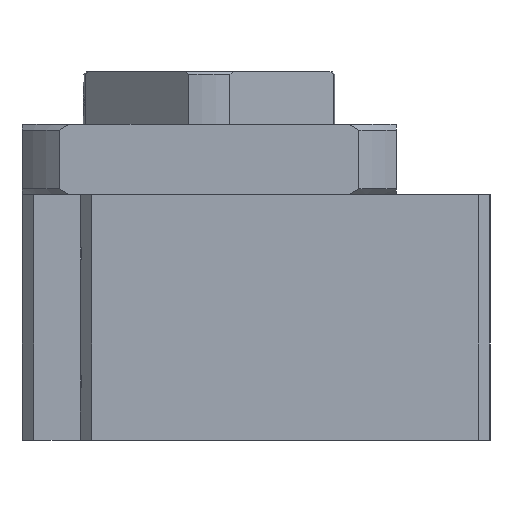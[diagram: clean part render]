
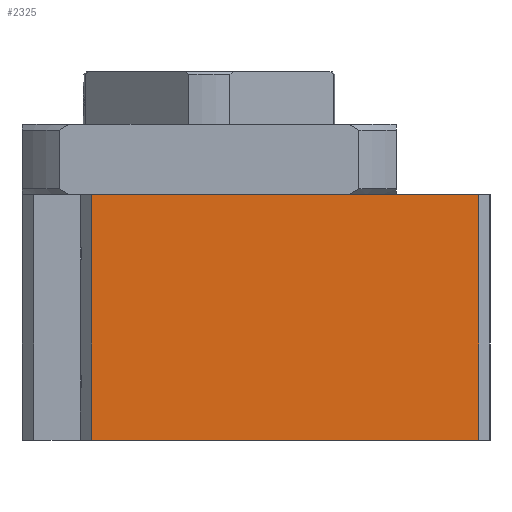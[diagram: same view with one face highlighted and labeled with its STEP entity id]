
A CAD part, left-side view. The second image highlights one B-rep face of the part: STEP entity #2325.
In plain terms, the highlighted planar face has unit normal (-1, 0, 0).
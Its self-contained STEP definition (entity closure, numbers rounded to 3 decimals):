
#121=LINE('',#3545,#297);
#134=LINE('',#3578,#310);
#135=LINE('',#3581,#311);
#136=LINE('',#3582,#312);
#297=VECTOR('',#2810,1000.);
#310=VECTOR('',#2833,1000.);
#311=VECTOR('',#2834,1000.);
#312=VECTOR('',#2835,1000.);
#465=PLANE('',#2525);
#603=ORIENTED_EDGE('',*,*,#1242,.F.);
#604=ORIENTED_EDGE('',*,*,#1243,.F.);
#605=ORIENTED_EDGE('',*,*,#1226,.T.);
#606=ORIENTED_EDGE('',*,*,#1244,.T.);
#1226=EDGE_CURVE('',#1545,#1546,#121,.T.);
#1242=EDGE_CURVE('',#1560,#1561,#134,.T.);
#1243=EDGE_CURVE('',#1545,#1560,#135,.T.);
#1244=EDGE_CURVE('',#1546,#1561,#136,.T.);
#1545=VERTEX_POINT('',#3546);
#1546=VERTEX_POINT('',#3547);
#1560=VERTEX_POINT('',#3579);
#1561=VERTEX_POINT('',#3580);
#1861=EDGE_LOOP('',(#603,#604,#605,#606));
#2079=FACE_BOUND('',#1861,.T.);
#2325=ADVANCED_FACE('',(#2079),#465,.T.);
#2525=AXIS2_PLACEMENT_3D('',#3577,#2831,#2832);
#2810=DIRECTION('',(0.,-1.,0.));
#2831=DIRECTION('',(-1.,0.,0.));
#2832=DIRECTION('',(0.,0.,1.));
#2833=DIRECTION('',(0.,-1.,0.));
#2834=DIRECTION('',(0.,0.,1.));
#2835=DIRECTION('',(0.,0.,1.));
#3545=CARTESIAN_POINT('',(-53.,20.08,-42.));
#3546=CARTESIAN_POINT('',(-53.,20.08,-42.));
#3547=CARTESIAN_POINT('',(-53.,-46.08,-42.));
#3577=CARTESIAN_POINT('',(-53.,20.08,-42.));
#3578=CARTESIAN_POINT('',(-53.,20.08,0.));
#3579=CARTESIAN_POINT('',(-53.,20.08,0.));
#3580=CARTESIAN_POINT('',(-53.,-46.08,0.));
#3581=CARTESIAN_POINT('',(-53.,20.08,-42.));
#3582=CARTESIAN_POINT('',(-53.,-46.08,-42.));
